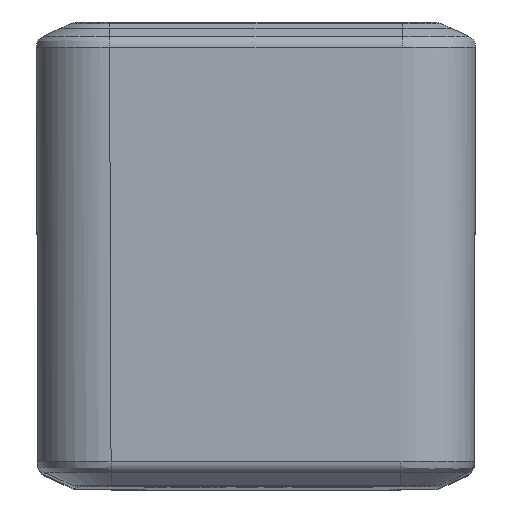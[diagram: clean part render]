
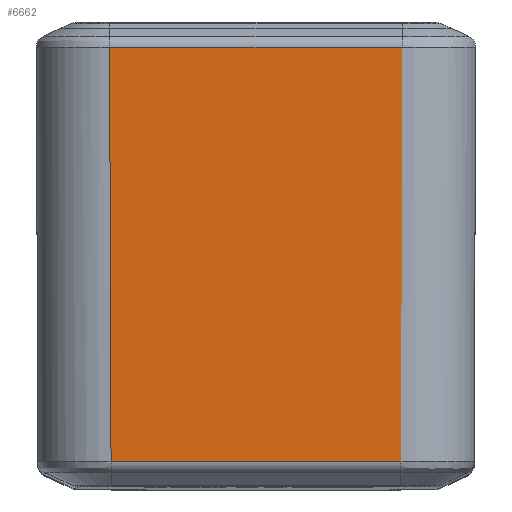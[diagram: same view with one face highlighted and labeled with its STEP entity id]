
A CAD part, top view. The second image highlights one B-rep face of the part: STEP entity #6662.
In plain terms, the highlighted planar face has unit normal (0, -0.004, 1).
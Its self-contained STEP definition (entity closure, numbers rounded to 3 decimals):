
#2203=CARTESIAN_POINT('',(-5.996,-1.018,71.496));
#2204=VERTEX_POINT('',#2203);
#3284=CARTESIAN_POINT('',(5.996,-1.018,71.496));
#3285=VERTEX_POINT('',#3284);
#3309=CARTESIAN_POINT('',(-5.996,-1.018,71.496));
#3310=DIRECTION('',(1.0,0.0,0.0));
#3311=VECTOR('',#3310,11.993);
#3312=LINE('',#3309,#3311);
#3313=EDGE_CURVE('',#2204,#3285,#3312,.T.);
#6361=CARTESIAN_POINT('',(5.937,-17.982,71.437));
#6362=VERTEX_POINT('',#6361);
#6404=CARTESIAN_POINT('',(5.936,-17.982,71.437));
#6405=VERTEX_POINT('',#6404);
#6415=CARTESIAN_POINT('',(5.937,-17.982,71.437));
#6416=CARTESIAN_POINT('',(5.937,-17.982,71.437));
#6417=CARTESIAN_POINT('',(5.936,-17.982,71.437));
#6418=CARTESIAN_POINT('',(5.936,-17.982,71.437));
#6419=B_SPLINE_CURVE_WITH_KNOTS('',3,(#6415,#6416,#6417,#6418),.UNSPECIFIED.,.F.,.U.,(4,4),(0.0,0.),.UNSPECIFIED.);
#6420=EDGE_CURVE('',#6362,#6405,#6419,.T.);
#6446=CARTESIAN_POINT('',(5.934,-17.982,71.437));
#6447=VERTEX_POINT('',#6446);
#6457=CARTESIAN_POINT('',(5.936,-17.982,71.437));
#6458=CARTESIAN_POINT('',(5.935,-17.982,71.437));
#6459=CARTESIAN_POINT('',(5.934,-17.982,71.437));
#6460=CARTESIAN_POINT('',(5.934,-17.982,71.437));
#6461=B_SPLINE_CURVE_WITH_KNOTS('',3,(#6457,#6458,#6459,#6460),.UNSPECIFIED.,.F.,.U.,(4,4),(0.0,0.),.UNSPECIFIED.);
#6462=EDGE_CURVE('',#6405,#6447,#6461,.T.);
#6472=CARTESIAN_POINT('',(-5.934,-17.982,71.437));
#6473=VERTEX_POINT('',#6472);
#6483=CARTESIAN_POINT('',(5.934,-17.982,71.437));
#6484=DIRECTION('',(-1.0,0.0,0.0));
#6485=VECTOR('',#6484,11.867);
#6486=LINE('',#6483,#6485);
#6487=EDGE_CURVE('',#6447,#6473,#6486,.T.);
#6513=CARTESIAN_POINT('',(-5.936,-17.982,71.437));
#6514=VERTEX_POINT('',#6513);
#6524=CARTESIAN_POINT('',(-5.934,-17.982,71.437));
#6525=CARTESIAN_POINT('',(-5.934,-17.982,71.437));
#6526=CARTESIAN_POINT('',(-5.935,-17.982,71.437));
#6527=CARTESIAN_POINT('',(-5.936,-17.982,71.437));
#6528=B_SPLINE_CURVE_WITH_KNOTS('',3,(#6524,#6525,#6526,#6527),.UNSPECIFIED.,.F.,.U.,(4,4),(0.,0.),.UNSPECIFIED.);
#6529=EDGE_CURVE('',#6473,#6514,#6528,.T.);
#6555=CARTESIAN_POINT('',(-5.937,-17.982,71.437));
#6556=VERTEX_POINT('',#6555);
#6566=CARTESIAN_POINT('',(-5.936,-17.982,71.437));
#6567=CARTESIAN_POINT('',(-5.936,-17.982,71.437));
#6568=CARTESIAN_POINT('',(-5.937,-17.982,71.437));
#6569=CARTESIAN_POINT('',(-5.937,-17.982,71.437));
#6570=B_SPLINE_CURVE_WITH_KNOTS('',3,(#6566,#6567,#6568,#6569),.UNSPECIFIED.,.F.,.U.,(4,4),(0.,0.),.UNSPECIFIED.);
#6571=EDGE_CURVE('',#6514,#6556,#6570,.T.);
#6621=CARTESIAN_POINT('',(5.996,-1.018,71.496));
#6622=DIRECTION('',(-0.003,-1.,-0.003));
#6623=VECTOR('',#6622,16.964);
#6624=LINE('',#6621,#6623);
#6625=EDGE_CURVE('',#3285,#6362,#6624,.T.);
#6642=CARTESIAN_POINT('',(-9.,0.0,71.5));
#6643=DIRECTION('',(0.0,-0.003,1.));
#6644=DIRECTION('',(-1.0,0.0,0.0));
#6645=AXIS2_PLACEMENT_3D('',#6642,#6643,#6644);
#6646=PLANE('',#6645);
#6647=CARTESIAN_POINT('',(-5.937,-17.982,71.437));
#6648=DIRECTION('',(-0.003,1.,0.003));
#6649=VECTOR('',#6648,16.964);
#6650=LINE('',#6647,#6649);
#6651=EDGE_CURVE('',#6556,#2204,#6650,.T.);
#6652=ORIENTED_EDGE('',*,*,#6651,.F.);
#6653=ORIENTED_EDGE('',*,*,#6571,.F.);
#6654=ORIENTED_EDGE('',*,*,#6529,.F.);
#6655=ORIENTED_EDGE('',*,*,#6487,.F.);
#6656=ORIENTED_EDGE('',*,*,#6462,.F.);
#6657=ORIENTED_EDGE('',*,*,#6420,.F.);
#6658=ORIENTED_EDGE('',*,*,#6625,.F.);
#6659=ORIENTED_EDGE('',*,*,#3313,.F.);
#6660=EDGE_LOOP('',(#6652,#6653,#6654,#6655,#6656,#6657,#6658,#6659));
#6661=FACE_OUTER_BOUND('',#6660,.T.);
#6662=ADVANCED_FACE('',(#6661),#6646,.T.);
